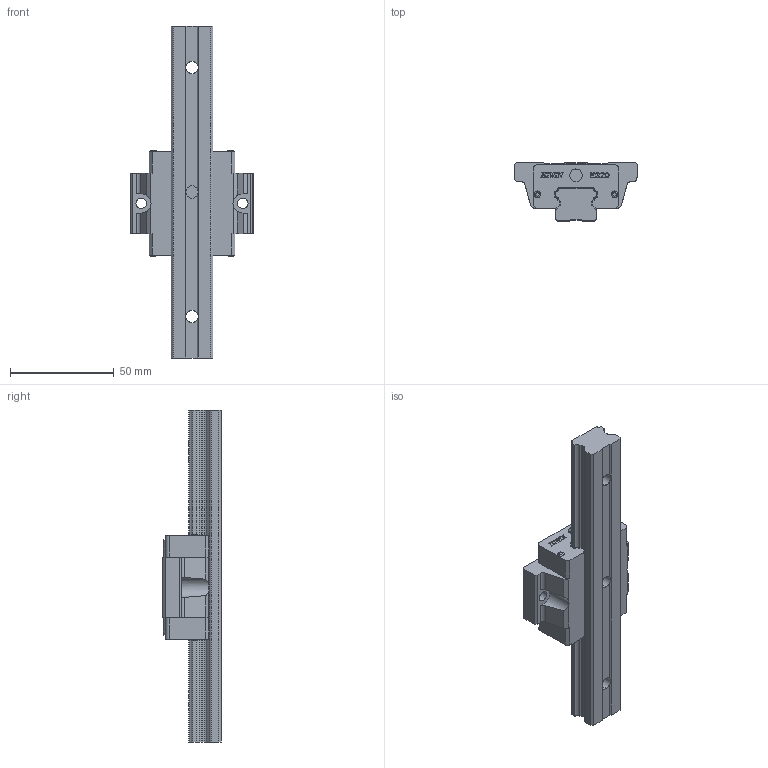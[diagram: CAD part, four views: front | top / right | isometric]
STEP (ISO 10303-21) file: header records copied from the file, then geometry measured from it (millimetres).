
FILE_DESCRIPTION((''),'2;1');
FILE_NAME('EGW20SA_ASM_ASM','2006-08-23T',('sheng'),(''),'PRO/ENGINEER BY PARAMETRIC TECHNOLOGY CORPORATION, 2004360','PRO/ENGINEER BY PARAMETRIC TECHNOLOGY CORPORATION, 2004360','');
FILE_SCHEMA(('CONFIG_CONTROL_DESIGN'));
Length unit declared in the file: millimetre
Products named in the file (3): EGW20SA_BLOCK; EG20_RAIL; EGW20SA_ASM_ASM
Assembly tree (2 placements, depth 2):
  EGW20SA_ASM_ASM
    EGW20SA_BLOCK
    EG20_RAIL
Bounding box: 59 x 28 x 160 mm (x, y, z)
Volume: 83426.3 mm3; surface area: 24023.8 mm2
Topology: 2 solids, 2 shells, 522 faces, 1556 edges, 1056 vertices
Faces by surface type: plane 340, cylinder 93, extrusion 77, torus 8, cone 4
Entity records: 18099 total; most frequent: CARTESIAN_POINT 3977, ORIENTED_EDGE 3112, DIRECTION 2617, EDGE_CURVE 1556, VECTOR 1221, LINE 1144, VERTEX_POINT 1056, AXIS2_PLACEMENT_3D 698
